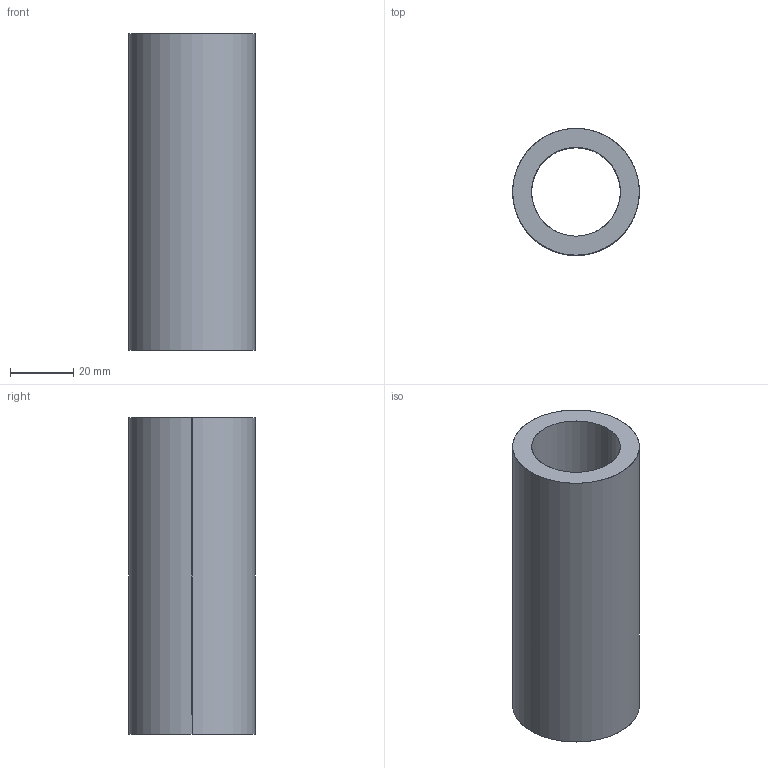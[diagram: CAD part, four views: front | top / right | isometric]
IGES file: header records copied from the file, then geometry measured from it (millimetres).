
Start section: SolidWorks IGES file using analytic representation for surfaces
Global section: file name: C:\Users\IanO\Desktop\L1771_v2\L1771.40_v2\L1771.40_v2_20230705_IGES\L1771.40-0100.igs; native system: SolidWorks 2019; preprocessor: SolidWorks 2019; author: IanO; date: 230705.155738; units: millimetre
Bounding box: 40 x 40 x 100 mm (x, y, z)
Surface area: 22644.6 mm2 (no closed solid volume)
Topology: 0 solids, 0 shells, 6 faces, 272 edges, 272 vertices
Faces by surface type: revolution 4, bspline 2
